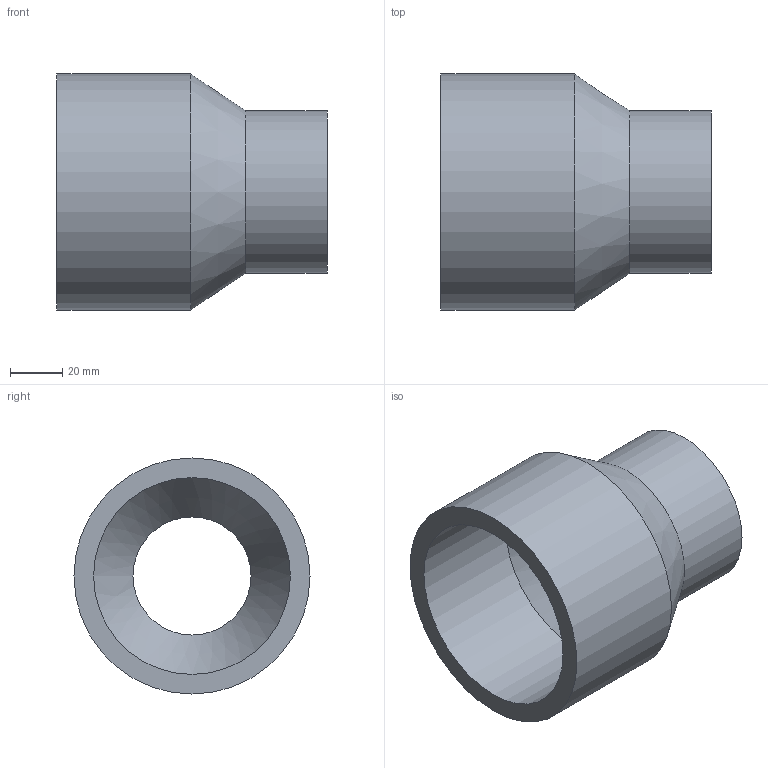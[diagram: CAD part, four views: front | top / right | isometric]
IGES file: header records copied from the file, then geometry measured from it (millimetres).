
Global section: file name: 050200090050.ipt; native system: Autodesk Inventor 2015; preprocessor: unknown; author: KIM; date: 20171207.164218; units: millimetre
Bounding box: 103 x 90 x 90 mm (x, y, z)
Volume: 185438 mm3; surface area: 50968.1 mm2
Topology: 1 solids, 1 shells, 10 faces, 23 edges, 16 vertices
Faces by surface type: revolution 4, plane 3, cylinder 2, cone 1
Full cylindrical faces by diameter (mm): 62 x1, 90 x1
